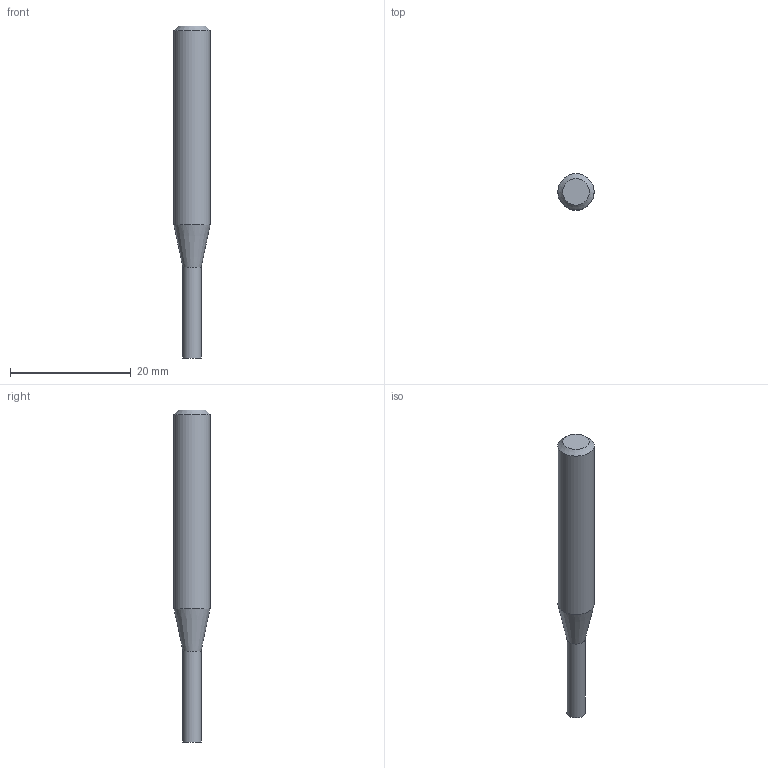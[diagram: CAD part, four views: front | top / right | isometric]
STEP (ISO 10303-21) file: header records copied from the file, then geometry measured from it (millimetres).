
FILE_DESCRIPTION((''),'2;1');
FILE_NAME('C:\Users\nsx150\AppData\Local\Temp\Mastercam 2021\E36A1X9CCL\TEMP.step','2023-04-21T15:28:11',(''),(''),'STEP Write','Mastercam 2021 ... CNC Software, Inc.','');
FILE_SCHEMA(('AUTOMOTIVE_DESIGN'));
Length unit declared in the file: millimetre
Products named in the file (1): None
Bounding box: 6 x 6 x 55 mm (x, y, z)
Volume: 1148.4 mm3; surface area: 904.1 mm2
Topology: 2 solids, 2 shells, 8 faces, 10 edges, 6 vertices
Faces by surface type: plane 4, cylinder 2, cone 2
Full cylindrical faces by diameter (mm): 3 x1, 6 x1
Entity records: 190 total; most frequent: DIRECTION 32, CARTESIAN_POINT 22, AXIS2_PLACEMENT_3D 16, ORIENTED_EDGE 12, EDGE_LOOP 12, STYLED_ITEM 11, ADVANCED_FACE 8, VERTEX_POINT 6
